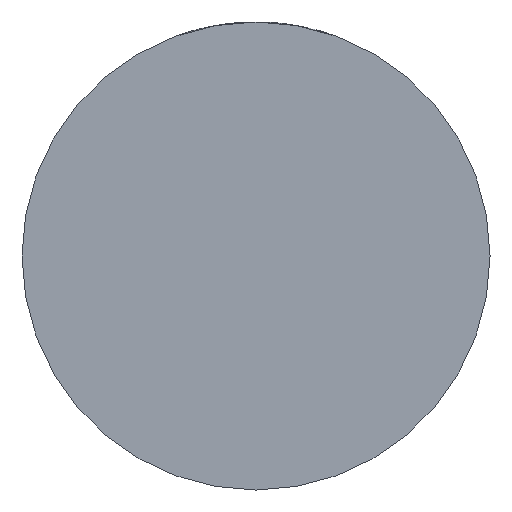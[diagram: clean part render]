
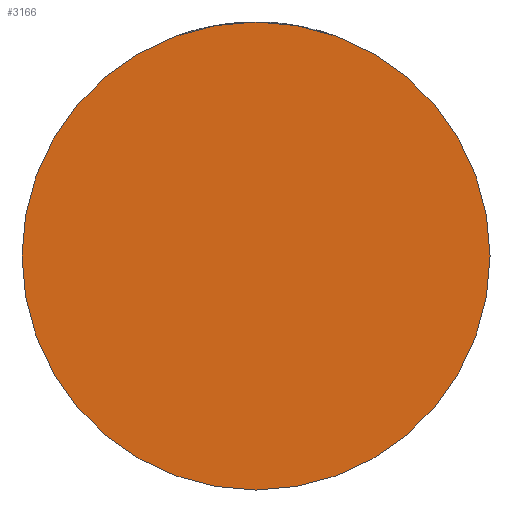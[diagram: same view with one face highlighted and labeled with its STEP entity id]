
A CAD part, front view. The second image highlights one B-rep face of the part: STEP entity #3166.
In plain terms, the highlighted planar face has unit normal (0, -1, 0).
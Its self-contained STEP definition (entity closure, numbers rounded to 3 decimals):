
#102 = CIRCLE ( 'NONE', #3845, 44. ) ;
#410 = PLANE ( 'NONE',  #2916 ) ;
#761 = CARTESIAN_POINT ( 'NONE',  ( -44., -29., 0. ) ) ;
#945 = DIRECTION ( 'NONE',  ( 1., 0., 0. ) ) ;
#1226 = CARTESIAN_POINT ( 'NONE',  ( 0., -29., 0. ) ) ;
#1242 = ORIENTED_EDGE ( 'NONE', *, *, #4230, .T. ) ;
#1530 = VERTEX_POINT ( 'NONE', #4175 ) ;
#1571 = CARTESIAN_POINT ( 'NONE',  ( 0., -29., 0. ) ) ;
#1665 = EDGE_CURVE ( 'NONE', #1530, #3436, #3284, .T. ) ;
#1763 = FACE_OUTER_BOUND ( 'NONE', #4440, .T. ) ;
#1914 = AXIS2_PLACEMENT_3D ( 'NONE', #1571, #3885, #3302 ) ;
#1938 = DIRECTION ( 'NONE',  ( 0., -1., 0. ) ) ;
#2485 = DIRECTION ( 'NONE',  ( 0., -1., 0. ) ) ;
#2530 = CARTESIAN_POINT ( 'NONE',  ( 0., -29., 0. ) ) ;
#2916 = AXIS2_PLACEMENT_3D ( 'NONE', #2530, #2485, #3835 ) ;
#3100 = ORIENTED_EDGE ( 'NONE', *, *, #1665, .T. ) ;
#3166 = ADVANCED_FACE ( 'NONE', ( #1763 ), #410, .T. ) ;
#3284 = CIRCLE ( 'NONE', #1914, 44. ) ;
#3302 = DIRECTION ( 'NONE',  ( 1., 0., 0. ) ) ;
#3436 = VERTEX_POINT ( 'NONE', #761 ) ;
#3835 = DIRECTION ( 'NONE',  ( 1., 0., 0. ) ) ;
#3845 = AXIS2_PLACEMENT_3D ( 'NONE', #1226, #1938, #945 ) ;
#3885 = DIRECTION ( 'NONE',  ( 0., -1., 0. ) ) ;
#4175 = CARTESIAN_POINT ( 'NONE',  ( 44., -29., 0. ) ) ;
#4230 = EDGE_CURVE ( 'NONE', #3436, #1530, #102, .T. ) ;
#4440 = EDGE_LOOP ( 'NONE', ( #1242, #3100 ) ) ;
